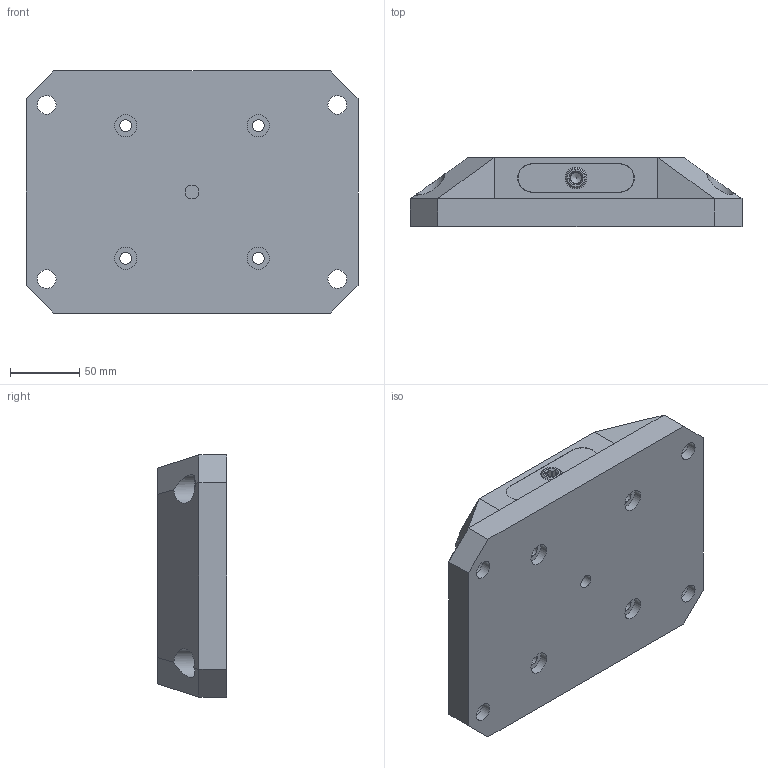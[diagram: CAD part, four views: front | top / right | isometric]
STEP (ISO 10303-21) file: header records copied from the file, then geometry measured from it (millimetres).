
FILE_DESCRIPTION (( 'STEP AP214' ), '1' );
FILE_NAME ('RL96A-2710_WEBSITE.step', '2025-08-11T11:14:42', ( '' ), ( '' ), 'SwSTEP 2.0', 'SolidWorks 2025', '' );
FILE_SCHEMA (( 'AUTOMOTIVE_DESIGN' ));
Length unit declared in the file: inch
Products named in the file (10): D_SB54_WEBSITE_FINISHED PART; 9452K121-Truck-O-Ring_WEBSITE; D_RL96-3_WEBSITE; 9750K730_PLASTIC ROUND PLUG_WEBSITE_9750K73; D_RL96-12710A_WEBSITE; 9452K183-Base-O-Ring_WEBSITE; D_RL96-2L_WEBSITE; D_HW27X20.DB_WEBSITE; D_RL96-2R_WEBSITE; RL96A-2710_WEBSITE
Assembly tree (16 placements, depth 2):
  9750K730_PLASTIC ROUND PLUG_WEBSITE_9750K73
  RL96A-2710_WEBSITE
    D_RL96-12710A_WEBSITE
    D_RL96-2R_WEBSITE
    D_RL96-2L_WEBSITE
    D_RL96-3_WEBSITE
    D_SB54_WEBSITE_FINISHED PART  x2
    D_HW27X20.DB_WEBSITE  x4
    9452K121-Truck-O-Ring_WEBSITE  x2
    9452K183-Base-O-Ring_WEBSITE  x4
Bounding box: 240 x 50 x 175 mm (x, y, z)
Volume: 1633539.2 mm3; surface area: 181085.4 mm2
Topology: 18 solids, 18 shells, 313 faces, 696 edges, 435 vertices
Faces by surface type: plane 192, cylinder 95, cone 14, torus 10, bspline 2
Full cylindrical faces by diameter (mm): 0.127 x2, 2.5 x2, 3.3 x2, 4 x2, 4.7 x2, 5 x2, 5.182 x2, 8.204 x2, 8.5 x4, 9 x2, 9.525 x2, 10.025 x1, 10.795 x1, 11.938 x4, 12.573 x4, 13.492 x4, 14 x2, 15.748 x2, 16.02 x4, 19.05 x2, 19.101 x4, 20.015 x5, 20.035 x4, 20.637 x2, 20.638 x2, 26.982 x4, 26.993 x4, 27.051 x4
Entity records: 9357 total; most frequent: CARTESIAN_POINT 3308, DIRECTION 1204, ORIENTED_EDGE 984, EDGE_CURVE 492, AXIS2_PLACEMENT_3D 480, EDGE_LOOP 405, VERTEX_POINT 349, FACE_OUTER_BOUND 331
